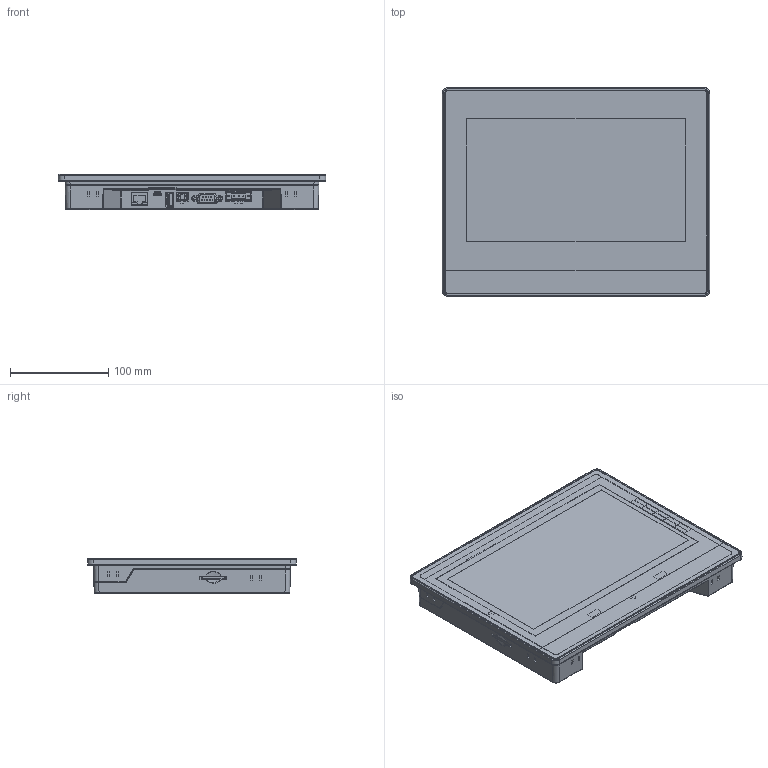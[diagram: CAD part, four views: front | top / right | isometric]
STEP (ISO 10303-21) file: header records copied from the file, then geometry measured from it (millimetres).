
FILE_DESCRIPTION(/* description */ (''),/* implementation_level */ '2;1');
FILE_NAME(/* name */ 'VI20-101S-FE',/* time_stamp */ '2022-11-21T09:34:30+08:00',/* author */ (''),/* organization */ (''),/* preprocessor_version */ 'ST-DEVELOPER v16.5',/* originating_system */ '',/* authorisation */ '');
FILE_SCHEMA (('AUTOMOTIVE_DESIGN'));
Products named in the file (26): Document; FE6100_ASM_ASM_1_ASM; FE6100-FILM_1_1; HR4-9004_1_1; FE6100-PCBA_ASM_1_ASM_1_ASM; B_1_1; DC-0921_8_1_1; D-SUB-M_2_1_1; TLPHC-200-2R_1_1; USBHOST-90_1_ASM_1_ASM; MANIFOLD_SOLID_BREP_24494_1; MANIFOLD_SOLID_BREP_24687_1; MANIFOLD_SOLID_BREP_24880_1; MICRO_USB_1_2_1_1; 55601881_1_1; SDCARD-CONNECTOR_1_1; SD-CARD_1_1; FE-AM335X-CORE_1; FE6100-SILICONE_1_1; FE6100-2G-BC_1; FE6100-20180608_ASM_1_ASM; ADMI1CD85147W0E0_ASM_1_ASM; MANIFOLD_SOLID_BREP_129_1; MANIFOLD_SOLID_BREP_130_1; MANIFOLD_SOLID_BREP_131_1; MANIFOLD_SOLID_BREP_132_1
Assembly tree (25 placements, depth 5):
  Document
    FE6100_ASM_ASM_1_ASM
      FE6100-FILM_1_1
      HR4-9004_1_1
      FE6100-PCBA_ASM_1_ASM_1_ASM
        B_1_1
        DC-0921_8_1_1
        D-SUB-M_2_1_1
        TLPHC-200-2R_1_1
        USBHOST-90_1_ASM_1_ASM
          MANIFOLD_SOLID_BREP_24494_1
          MANIFOLD_SOLID_BREP_24687_1
          MANIFOLD_SOLID_BREP_24880_1
        MICRO_USB_1_2_1_1
        55601881_1_1
        SDCARD-CONNECTOR_1_1
        SD-CARD_1_1
        FE-AM335X-CORE_1
      FE6100-SILICONE_1_1
      FE6100-2G-BC_1
      FE6100-20180608_ASM_1_ASM
        ADMI1CD85147W0E0_ASM_1_ASM
          MANIFOLD_SOLID_BREP_129_1
          MANIFOLD_SOLID_BREP_130_1
          MANIFOLD_SOLID_BREP_131_1
          MANIFOLD_SOLID_BREP_132_1
Bounding box: 273 x 213 x 36.2 mm (x, y, z)
Volume: 396468 mm3; surface area: 656693 mm2
Topology: 21 solids, 21 shells, 5254 faces, 14506 edges, 9747 vertices
Faces by surface type: plane 3409, bspline 1845
Entity records: 183580 total; most frequent: CARTESIAN_POINT 91339, ORIENTED_EDGE 28948, EDGE_CURVE 14474, B_SPLINE_CURVE_WITH_KNOTS 10959, VERTEX_POINT 9723, EDGE_LOOP 5837, ADVANCED_FACE 5254, FACE_OUTER_BOUND 5254
